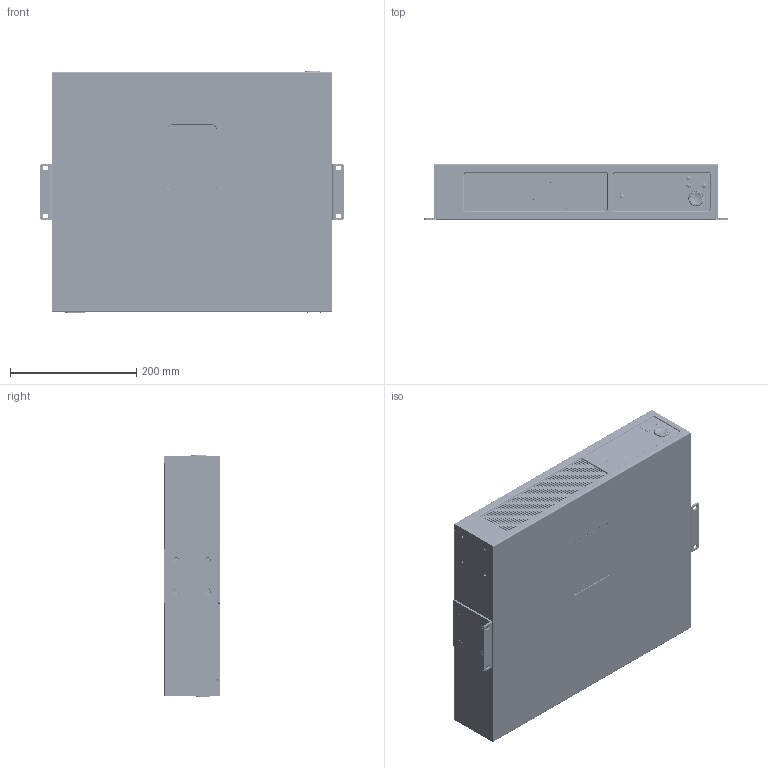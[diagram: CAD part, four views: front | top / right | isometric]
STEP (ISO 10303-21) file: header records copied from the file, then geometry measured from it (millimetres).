
FILE_DESCRIPTION (( 'STEP AP214' ), '1' );
FILE_NAME ('FG-901670-3D (OVER SURFACE MOUNT) - A.STEP', '2026-03-10T17:19:37', ( '' ), ( '' ), 'SwSTEP 2.0', 'SolidWorks 2023', '' );
FILE_SCHEMA (( 'AUTOMOTIVE_DESIGN' ));
Length unit declared in the file: millimetre
Products named in the file (1): FG-901670-3D (OVER SURFACE MOUNT) - A
Bounding box: 482.6 x 88 x 384.18 mm (x, y, z)
Volume: 14821680 mm3; surface area: 554684.8 mm2
Topology: 3 solids, 3 shells, 6540 faces, 15073 edges, 9811 vertices
Faces by surface type: plane 4118, cylinder 1648, bspline 344, torus 209, cone 159, sphere 62
Entity records: 230431 total; most frequent: CARTESIAN_POINT 39667, DIRECTION 31122, ORIENTED_EDGE 30146, EDGE_CURVE 15073, AXIS2_PLACEMENT_3D 10558, LINE 10006, VECTOR 10006, VERTEX_POINT 9811
